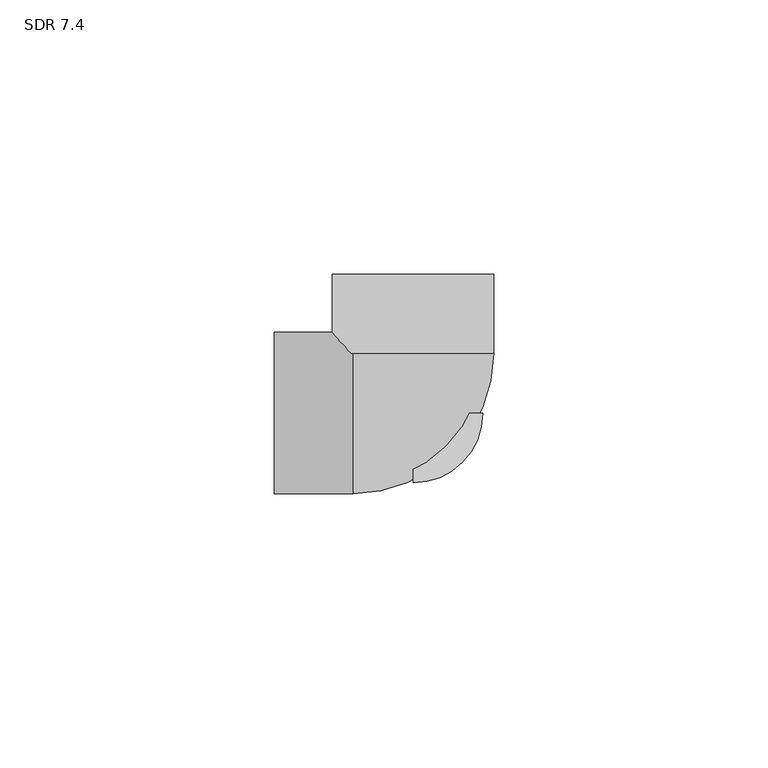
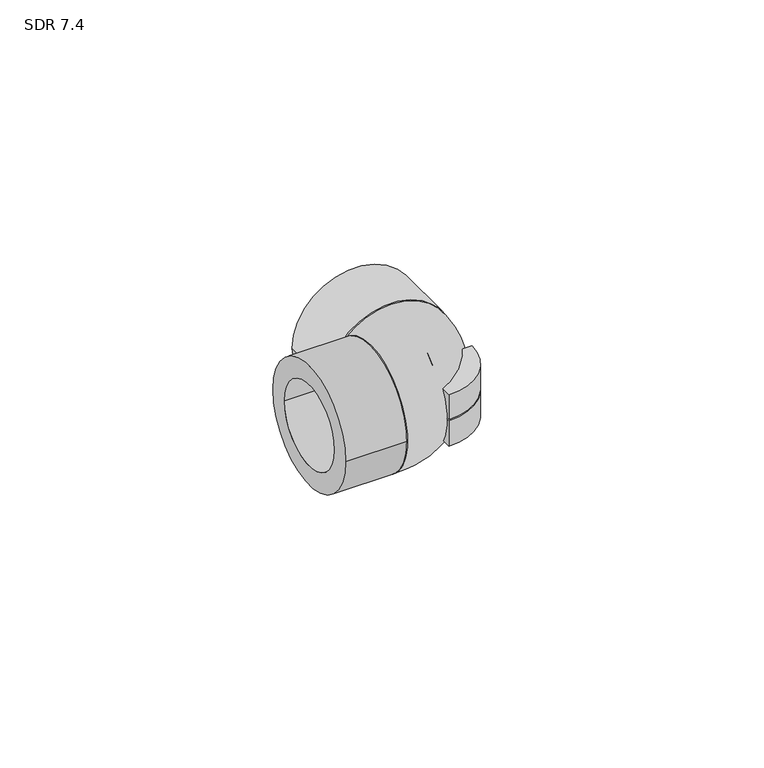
"""IFC4 building model written with IfcOpenShell, lengths in millimetres: pipe fitting geometry, Aquatherm - Elbow Socket : SDR 7.4."""

from ifc_helpers import new_model, si_unit, point, frame, origin, origin_with_axes, origin_2d, place, context, project, spatial, polyline, circle_curve, ellipse_curve, trimmed, segment, composite_curve, outline, extrude, source, transform, mapped, element, save
from ifc_brep_helpers import plane_surface, revolved_surface, advanced_brep


def sdr_7_4_7364f7d8(model_context):
    return source(origin(), model_context, "Body", "SolidModel", [
        extrude(outline(composite_curve([segment(polyline([(0.0, -12.7), (0.0, 0.0), (12.7, 0.0)]), True, "CONTINUOUS"), segment(trimmed(circle_curve(origin_2d(), 12.7), [point((12.7, 0.0))], [point((0.0, -12.7))], False, "CARTESIAN"), True, "CONTINUOUS")], self_intersect=False)), frame((0.0, 0.0, -6.35), z_axis=(0.0, 0.0, 1.0), x_axis=(1.0, 0.0, 0.0)), (0.0, 0.0, 1.0), 6.35),
        extrude(outline(composite_curve([segment(trimmed(circle_curve(origin_2d(), 12.7), [point((12.7, 0.0))], [point((0.0, -12.7))], False, "CARTESIAN"), True, "CONTINUOUS"), segment(polyline([(0.0, -12.7), (0.0, 0.0), (12.7, 0.0)]), True, "CONTINUOUS")], self_intersect=False)), origin_with_axes(), (0.0, 0.0, 1.0), 6.35),
        extrude(outline(composite_curve([segment(trimmed(circle_curve(origin_2d(), 14.732), [point((0.0, 14.732))], [point((0.0, -14.732))], False, "CARTESIAN"), True, "CONTINUOUS"), segment(trimmed(circle_curve(origin_2d(), 14.732), [point((0.0, -14.732))], [point((0.0, 14.732))], False, "CARTESIAN"), True, "CONTINUOUS")], self_intersect=False), holes=[composite_curve([segment(trimmed(circle_curve(origin_2d(), 10.033), [point((0.0, 10.033))], [point((0.0, -10.033))], True, "CARTESIAN"), True, "CONTINUOUS"), segment(trimmed(circle_curve(origin_2d(), 10.033), [point((0.0, -10.033))], [point((0.0, 10.033))], True, "CARTESIAN"), True, "CONTINUOUS")], self_intersect=False)]), frame((0.0, 10.922, 0.0), z_axis=(0.0, 1.0, 0.0), x_axis=(0.0, 0.0, 1.0)), (0.0, 0.0, 1.0), 14.478),
        advanced_brep(
        [(-10.922, 10.922, -9.8864422), (-10.922, 10.922, 9.8864422), (-10.922, -7.2460556, 0.0), (-10.922, 7.2460556, 0.0), (7.2460556, 10.922, 0.0), (-7.2460556, 10.922, 0.0)],
        [
            (0, 1, circle_curve(frame((-10.922, 0.0, 0.0), z_axis=(-1.0, 0.0, 0.0), x_axis=(0.0, 1.0, 0.0)), 14.732)),
            (1, 0),
            (2, 3, circle_curve(frame((-10.922, 0.0, 0.0), z_axis=(1.0, 0.0, 0.0), x_axis=(0.0, 1.0, 0.0)), 7.2460556)),
            (3, 2, circle_curve(frame((-10.922, 0.0, 0.0), z_axis=(1.0, 0.0, 0.0), x_axis=(0.0, 1.0, 0.0)), 7.2460556)),
            (1, 0, circle_curve(frame((0.0, 10.922, 0.0), z_axis=(0.0, 1.0, 0.0), x_axis=(-1.0, 0.0, 0.0)), 14.732)),
            (4, 5, circle_curve(frame((0.0, 10.922, 0.0), z_axis=(0.0, -1.0, 0.0), x_axis=(-1.0, 0.0, 0.0)), 7.2460556)),
            (5, 4, circle_curve(frame((0.0, 10.922, 0.0), z_axis=(0.0, -1.0, 0.0), x_axis=(-1.0, 0.0, 0.0)), 7.2460556)),
            (5, 3, circle_curve(frame((-10.922, 10.922, 0.0), z_axis=(0.0, 0.0, -1.0), x_axis=(0.0, -1.0, 0.0)), 3.6759444)),
            (2, 4, circle_curve(frame((-10.922, 10.922, 0.0), z_axis=(0.0, 0.0, 1.0), x_axis=(0.0, -1.0, 0.0)), 18.1680556)),
        ],
        [
            plane_surface(frame((-10.922, 10.922, 67.0364422), z_axis=(-1.0, 0.0, 0.0), x_axis=(0.0, -1.0, 0.0))),
            plane_surface(frame((-10.922, 10.922, 67.0364422), z_axis=(0.0, 1.0, 0.0), x_axis=(1.0, 0.0, 0.0))),
            revolved_surface(trimmed(ellipse_curve(frame((-10.922, 0.0, 0.0), z_axis=(1.0, 0.0, 0.0), x_axis=(0.0, 1.0, 0.0)), 14.732, 14.732), [point((-10.922, 10.922, 9.8864422))], [point((-10.922, 10.922, -9.8864422))], True, "CARTESIAN"), (-10.922, 10.922, 67.0364422), (0.0, 0.0, -1.0)),
            revolved_surface(trimmed(ellipse_curve(frame((-10.922, 0.0, 0.0), z_axis=(-1.0, 0.0, 0.0), x_axis=(0.0, 1.0, 0.0)), 7.2460556, 7.2460556), [point((-10.922, 7.2460556, 0.0))], [point((-10.922, -7.2460556, 0.0))], True, "CARTESIAN"), (-10.922, 10.922, 67.0364422), (0.0, 0.0, -1.0)),
            revolved_surface(trimmed(ellipse_curve(frame((-10.922, 0.0, 0.0), z_axis=(-1.0, 0.0, 0.0), x_axis=(0.0, 1.0, 0.0)), 7.2460556, 7.2460556), [point((-10.922, -7.2460556, 0.0))], [point((-10.922, 7.2460556, 0.0))], True, "CARTESIAN"), (-10.922, 10.922, 67.0364422), (0.0, 0.0, -1.0)),
        ],
        [
            (0, [[1, 2], [3, 4]]),
            (1, [[5, -2], [6, 7]]),
            (2, [[-1, -5]]),
            (3, [[8, -3, 9, -7]]),
            (4, [[-9, -4, -8, -6]]),
        ],
    ),
        extrude(outline(composite_curve([segment(trimmed(circle_curve(origin_2d(), 14.732), [point((14.732, 0.0))], [point((-14.732, 0.0))], False, "CARTESIAN"), True, "CONTINUOUS"), segment(trimmed(circle_curve(origin_2d(), 14.732), [point((-14.732, 0.0))], [point((14.732, 0.0))], False, "CARTESIAN"), True, "CONTINUOUS")], self_intersect=False), holes=[composite_curve([segment(trimmed(circle_curve(origin_2d(), 10.033), [point((10.033, 0.0))], [point((-10.033, 0.0))], True, "CARTESIAN"), True, "CONTINUOUS"), segment(trimmed(circle_curve(origin_2d(), 10.033), [point((-10.033, 0.0))], [point((10.033, 0.0))], True, "CARTESIAN"), True, "CONTINUOUS")], self_intersect=False)]), frame((-25.4, 0.0, 0.0), z_axis=(1.0, 0.0, 0.0), x_axis=(0.0, 1.0, 0.0)), (0.0, 0.0, 1.0), 14.478),
    ])


if __name__ == "__main__":
    model = new_model("IFC4")
    model_context = context("Model", 3, world=origin())
    ifc_project = project(units=[si_unit("LENGTHUNIT", "METRE", prefix="MILLI")], contexts=[model_context])
    site = spatial("IfcSite", under=ifc_project)
    building = spatial("IfcBuilding", under=site)
    placement = place(None, origin())
    sdr_7_4_shape = sdr_7_4_7364f7d8(model_context)
    element("IfcPipeFitting", 1, ObjectType="Aquatherm - Elbow Socket : SDR 7.4", at=placement, inside=building, context=model_context, shape_type="MappedRepresentation", body=[
        mapped(sdr_7_4_shape, transform((0.0, 0.0, 0.0), x_axis=(1.0, 0.0, 0.0), y_axis=(0.0, 1.0, 0.0), z_axis=(0.0, 0.0, 1.0))),
    ])
    save(model, "model.ifc")
